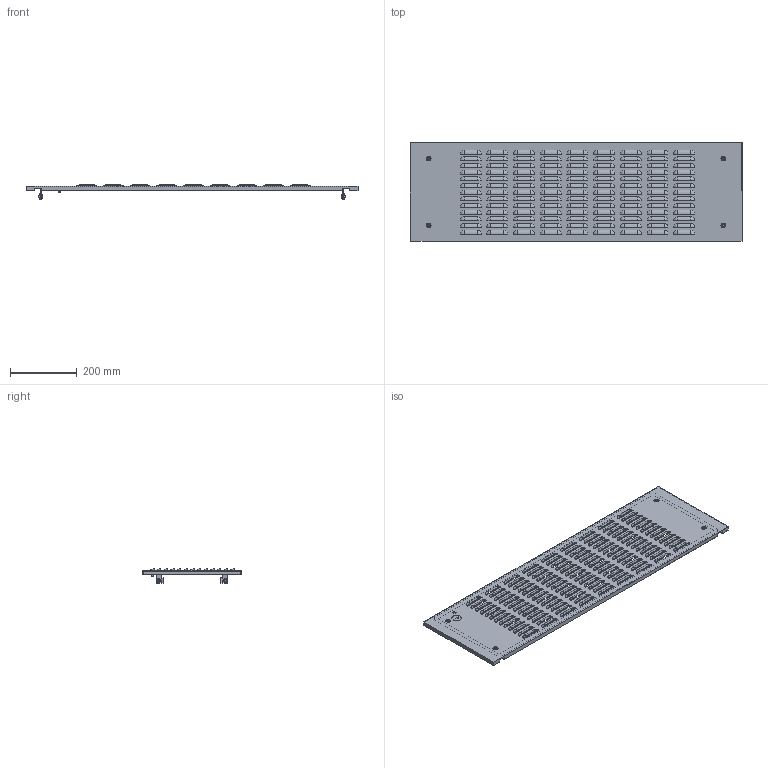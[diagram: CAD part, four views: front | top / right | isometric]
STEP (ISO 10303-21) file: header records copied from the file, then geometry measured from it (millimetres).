
FILE_DESCRIPTION (( 'STEP AP214' ), '1' );
FILE_NAME ('FO-00-PWSV-030-100 Ôàëüø-ïàíåëü âíåøíÿÿ âåíòèëèðóåìàÿ 300õ1000 ìì.STEP', '2025-08-25T07:04:34', ( '' ), ( '' ), 'SwSTEP 2.0', 'SolidWorks 2023', '' );
FILE_SCHEMA (( 'AUTOMOTIVE_DESIGN' ));
Length unit declared in the file: millimetre
Products named in the file (1): FO-00-PWSV-030-100 Фальш-панель внешняя вентилируемая 300х1000 мм
Bounding box: 995 x 296 x 43.5 mm (x, y, z)
Volume: 763938 mm3; surface area: 727851 mm2
Topology: 1 solids, 10 shells, 2133 faces, 5946 edges, 3385 vertices
Faces by surface type: plane 849, cylinder 730, sphere 468, cone 62, torus 24
Entity records: 65867 total; most frequent: DIRECTION 12280, CARTESIAN_POINT 11567, ORIENTED_EDGE 10952, EDGE_CURVE 5476, AXIS2_PLACEMENT_3D 4702, VERTEX_POINT 3385, LINE 2876, VECTOR 2876
